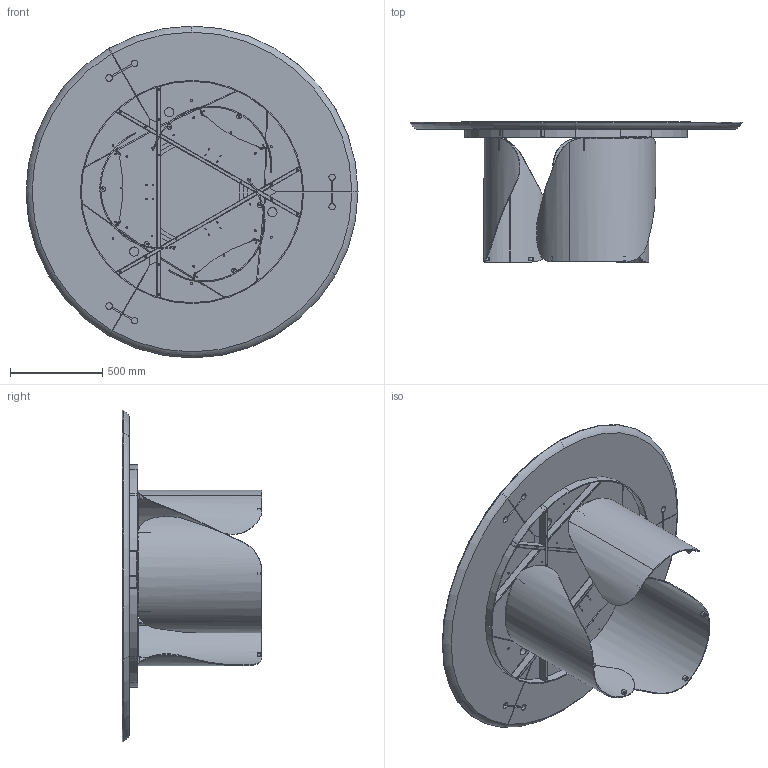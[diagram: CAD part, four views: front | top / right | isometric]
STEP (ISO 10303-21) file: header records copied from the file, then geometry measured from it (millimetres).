
FILE_DESCRIPTION (( 'STEP AP203' ), '1' );
FILE_NAME ('ON16L_Onda_d.180_WoodCeramic.STEP', '2024-07-31T13:02:42', ( '' ), ( '' ), 'SwSTEP 2.0', 'SolidWorks 2022', '' );
FILE_SCHEMA (( 'CONFIG_CONTROL_DESIGN' ));
Length unit declared in the file: millimetre
Products named in the file (17): OND000000_03-00-LAMIERA CURVATA PRINCIPALE_OND00000X-00-ONDA BASE GREZZA PROTOTIPO; TTAV11GR_04-02-ANCORAGGIO DORIAN; W16_03-00-PIANO + LAMA; OND000000-03-ONDA BASE GREZZA; Vite Legno 3,0xXX_S4.5x40; TTAV12GR_03-02-PIASTRA ANCORAGGIO; TTAV12GR_02-02-RING PIATTO; W16_01-00-SPICCHIO SINGOLO Ø180; CUSCINETTO SFERE Ø600; OND000000_01-00-PIASTRA SUPERIORE BASE ONDA; LAM000002-01-LAME METALLO X TAVOLI LEG CER D180 GREZZO; TTAV12GR-02-TELAIO X TAVOLO LEG_CER D180 GREZZO; OND000000_02-00-CILINDRO DI FISSAGGIO Ø25X17 M8; ON16L_Onda_d.180_WoodCeramic; TTAV12GR_01-02-TRAVERSO; K03X-00-SOLO CERAMICA; spina_SPINA Ø10X40
Assembly tree (33 placements, depth 3):
  ON16L_Onda_d.180_WoodCeramic
    TTAV12GR-02-TELAIO X TAVOLO LEG_CER D180 GREZZO
      TTAV12GR_01-02-TRAVERSO  x3
      TTAV12GR_02-02-RING PIATTO
      TTAV12GR_03-02-PIASTRA ANCORAGGIO  x3
      TTAV11GR_04-02-ANCORAGGIO DORIAN  x6
    W16_03-00-PIANO + LAMA  x3
      W16_01-00-SPICCHIO SINGOLO Ø180
      LAM000002-01-LAME METALLO X TAVOLI LEG CER D180 GREZZO
      spina_SPINA Ø10X40
      Vite Legno 3,0xXX_S4.5x40
    OND000000-03-ONDA BASE GREZZA  x3
      OND000000_03-00-LAMIERA CURVATA PRINCIPALE_OND00000X-00-ONDA BASE GREZZA PROTOTIPO
      OND000000_01-00-PIASTRA SUPERIORE BASE ONDA
      OND000000_02-00-CILINDRO DI FISSAGGIO Ø25X17 M8
    K03X-00-SOLO CERAMICA
    CUSCINETTO SFERE Ø600
Bounding box: 1800.23 x 759 x 1799.98 mm (x, y, z)
Volume: 97388970.8 mm3; surface area: 12817696 mm2
Topology: 49 solids, 49 shells, 2081 faces, 5654 edges, 3593 vertices
Faces by surface type: cylinder 822, plane 679, bspline 276, cone 166, torus 138
Entity records: 29038 total; most frequent: CARTESIAN_POINT 13115, ORIENTED_EDGE 2924, DIRECTION 2724, EDGE_CURVE 1462, AXIS2_PLACEMENT_3D 1010, VERTEX_POINT 935, LINE 704, VECTOR 704
